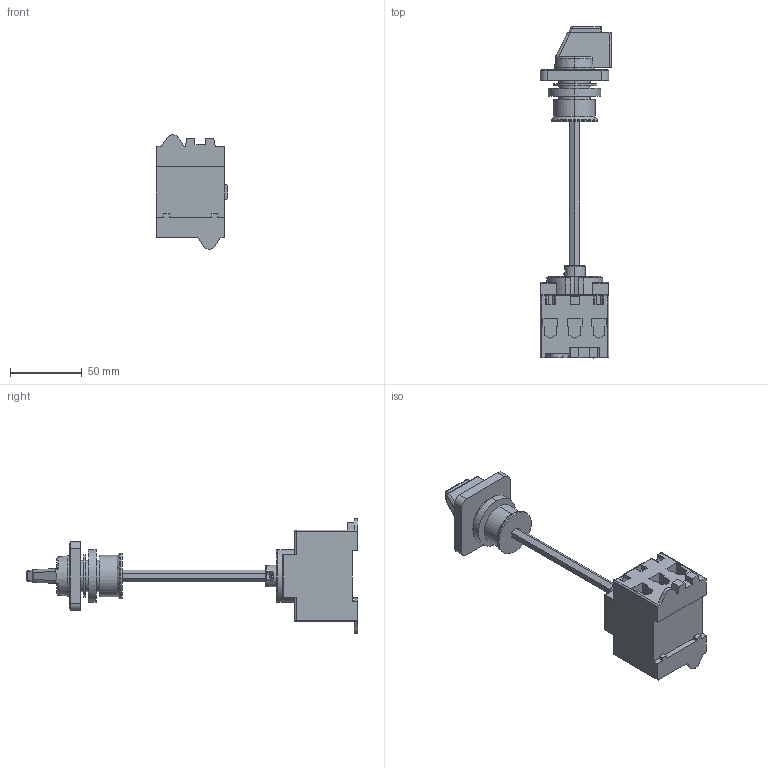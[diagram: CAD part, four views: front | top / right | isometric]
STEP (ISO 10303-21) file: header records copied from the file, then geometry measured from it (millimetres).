
FILE_DESCRIPTION (( 'STEP AP203' ), '1' );
FILE_NAME ('LTS63_80 VZVHN1 A3.STEP', '2014-05-13T12:56:51', ( '' ), ( '' ), 'SwSTEP 2.0', 'SolidWorks 2014', '' );
FILE_SCHEMA (( 'CONFIG_CONTROL_DESIGN' ));
Length unit declared in the file: millimetre
Products named in the file (5): Achse TK-LT_100_300; TK2Z H1; LTS63_80 VZVHN1 A3; LTS63 VZV A3_Schaltkörper; 8184
Assembly tree (4 placements, depth 2):
  LTS63_80 VZVHN1 A3
    LTS63 VZV A3_Schaltkörper
    8184
    Achse TK-LT_100_300
    TK2Z H1
Bounding box: 49.97 x 232.1 x 80 mm (x, y, z)
Volume: 187765 mm3; surface area: 43878.1 mm2
Topology: 4 solids, 4 shells, 491 faces, 1244 edges, 784 vertices
Faces by surface type: plane 254, cylinder 117, bspline 62, cone 36, torus 18, sphere 4
Entity records: 18128 total; most frequent: CARTESIAN_POINT 6240, ORIENTED_EDGE 2464, DIRECTION 2202, EDGE_CURVE 1232, VERTEX_POINT 784, LINE 744, VECTOR 744, AXIS2_PLACEMENT_3D 729
